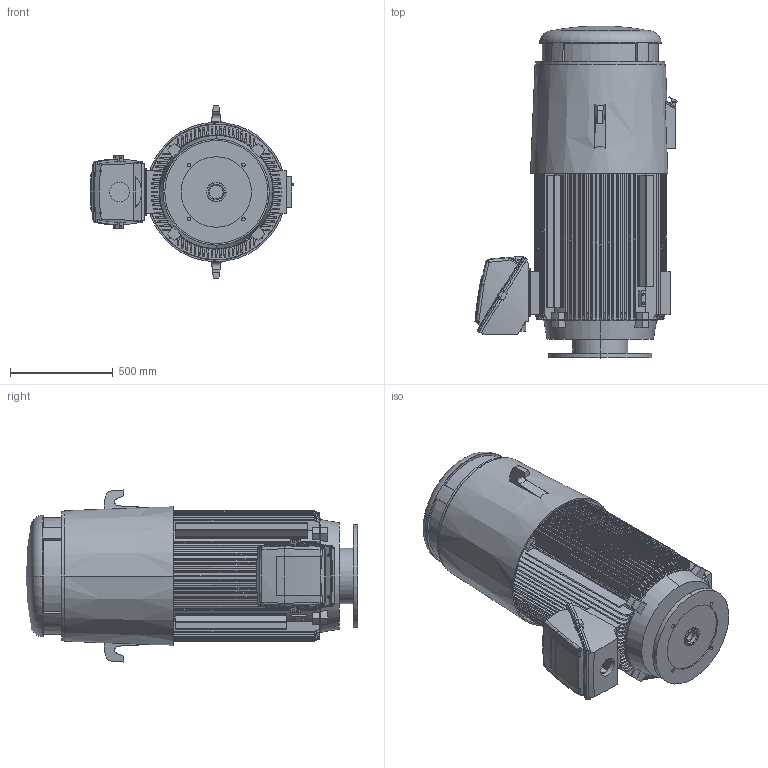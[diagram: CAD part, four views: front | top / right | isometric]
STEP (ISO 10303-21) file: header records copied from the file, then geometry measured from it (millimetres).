
FILE_DESCRIPTION((''),'2;1');
FILE_NAME('449VP-VPH_JUC-JVC4_ASM','2019-04-24T07:54:57',('EMD2341'),('Nidec Motor Corporation'),'CREO PARAMETRIC BY PTC INC, 2018300','CREO PARAMETRIC BY PTC INC, 2018300','');
FILE_SCHEMA(('CONFIG_CONTROL_DESIGN'));
Length unit declared in the file: inch
Products named in the file (6): 449VPH_JVC4_BASE; 0189738-OBB; 0189734; 0842897; SHAFT; 449VP-VPH_JUC-JVC4_ASM
Assembly tree (5 placements, depth 2):
  449VP-VPH_JUC-JVC4_ASM
    449VPH_JVC4_BASE
    0189738-OBB
    0189734
    0842897
    SHAFT
Bounding box: 987.45 x 1616.51 x 838.2 mm (x, y, z)
Volume: 451449246.7 mm3; surface area: 10267153.5 mm2
Topology: 6 solids, 12 shells, 1422 faces, 3841 edges, 2530 vertices
Faces by surface type: plane 609, cylinder 281, cone 181, torus 171, bspline 152, sphere 18, revolution 10
Entity records: 54185 total; most frequent: CARTESIAN_POINT 20020, ORIENTED_EDGE 7650, DIRECTION 6399, EDGE_CURVE 3837, VERTEX_POINT 2530, AXIS2_PLACEMENT_3D 2491, EDGE_LOOP 1571, FACE_OUTER_BOUND 1422
